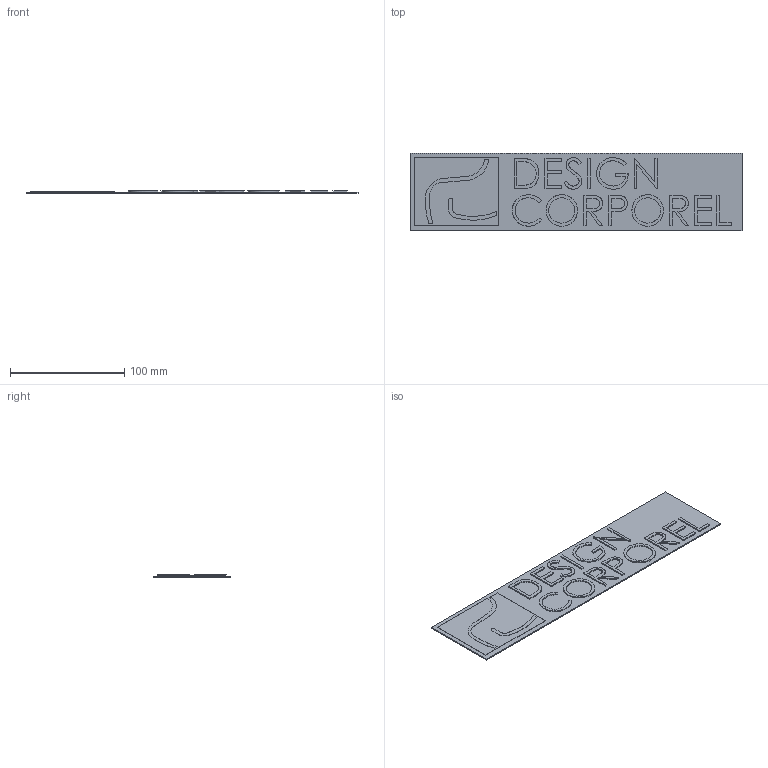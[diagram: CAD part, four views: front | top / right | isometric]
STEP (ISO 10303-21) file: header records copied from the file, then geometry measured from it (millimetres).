
FILE_DESCRIPTION (( 'STEP AP203' ), '1' );
FILE_NAME ('Autocollant Design corporel 290 x 70.STEP', '2012-04-29T10:44:51', ( '' ), ( '' ), 'SwSTEP 2.0', 'SolidWorks 2010', '' );
FILE_SCHEMA (( 'CONFIG_CONTROL_DESIGN' ));
Length unit declared in the file: millimetre
Products named in the file (1): Autocollant Design corporel 290 x 70
Bounding box: 290 x 68 x 2 mm (x, y, z)
Volume: 22927.5 mm3; surface area: 43090.9 mm2
Topology: 3 solids, 3 shells, 213 faces, 558 edges, 372 vertices
Faces by surface type: plane 130, bspline 72, cylinder 11
Entity records: 13566 total; most frequent: CARTESIAN_POINT 8707, ORIENTED_EDGE 1116, DIRECTION 720, EDGE_CURVE 558, VECTOR 392, LINE 392, VERTEX_POINT 372, EDGE_LOOP 234
